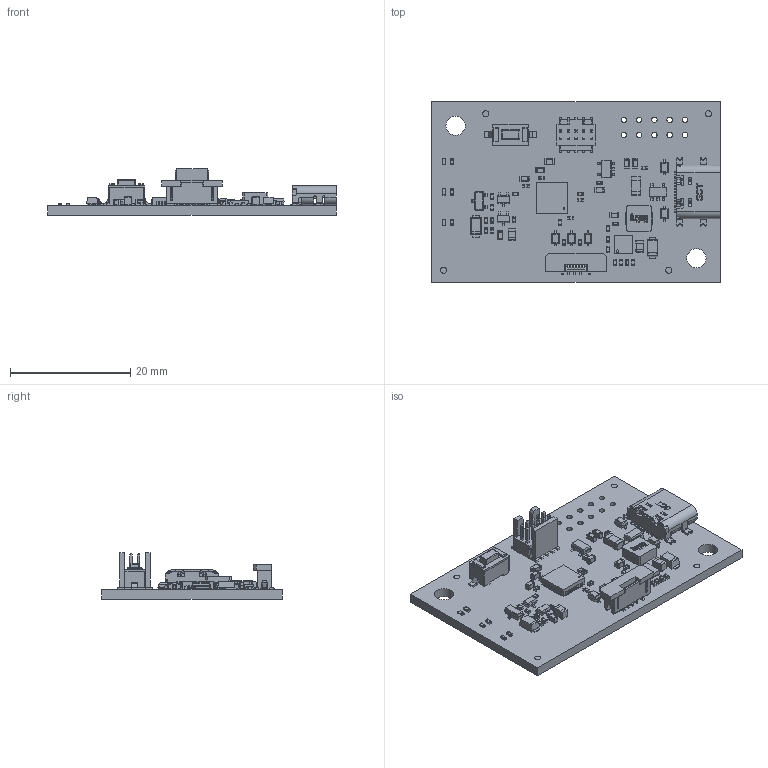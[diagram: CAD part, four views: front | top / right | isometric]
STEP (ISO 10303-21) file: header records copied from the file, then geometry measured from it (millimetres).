
FILE_DESCRIPTION(('Open CASCADE Model'),'2;1');
FILE_NAME('Open CASCADE Shape Model','2025-10-31T11:23:48',('Author'),( 'Open CASCADE'),'Open CASCADE STEP processor 7.5','Open CASCADE 7.5' ,'Unknown');
FILE_SCHEMA(('AUTOMOTIVE_DESIGN { 1 0 10303 214 1 1 1 1 }'));
Length unit declared in the file: millimetre
Products named in the file (143): PCB; Board; Open CASCADE STEP translator 7.5 3.1.1; SW1; PTS636SM43SMTRLFS_RGB8421504; PTS636SM43SMTRLFS_PART1; PTS636SM43SMTRLFS_PART2; PTS636SM43SMTRLFS_PART3; PTS636SM43SMTRLFS_PART4; PTS636SM43SMTRLFS_PART5; PTS636SM43SMTRLFS_PART6; PTS636SM43SMTRLFS_PART7; PTS636SM43SMTRLFS_PART8; PTS636SM43SMTRLFS_PART9; PTS636SM43SMTRLFS_PART10; R7; User Library-CR1005-0402; C12; A3D-CAP-0001-1; Pin1; Pin2; CeramicBody; L1; SRP4020TA series_RGB8421504; FB2; BLM31PG601SN1L_RGB8421504; FB1; MMZ1608Q601BTA00_RGB8421504; D4; D1213A-01WS-7_RGB8421504; C13; CAP_SMD_0805_N; C4; C9; CAP_SMD_0603_N; C16; LD3; Download_STP_WL-SMCC_0402_compact (rev1); Resin; Contact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
Assembly tree (195 placements, depth 5):
  PCB
    Board
      Open CASCADE STEP translator 7.5 3.1.1
    SW1
      PTS636SM43SMTRLFS_RGB8421504
        PTS636SM43SMTRLFS_PART1
        PTS636SM43SMTRLFS_PART2
        PTS636SM43SMTRLFS_PART3
        PTS636SM43SMTRLFS_PART4
        PTS636SM43SMTRLFS_PART5
        PTS636SM43SMTRLFS_PART6
        PTS636SM43SMTRLFS_PART7
        PTS636SM43SMTRLFS_PART8
        PTS636SM43SMTRLFS_PART9
        PTS636SM43SMTRLFS_PART10
    R7
      User Library-CR1005-0402
    C12
      A3D-CAP-0001-1
        Pin1
        Pin2
        CeramicBody
    L1
      SRP4020TA series_RGB8421504
    FB2
      BLM31PG601SN1L_RGB8421504
    FB1
      MMZ1608Q601BTA00_RGB8421504
    D4
      D1213A-01WS-7_RGB8421504
    C13
      CAP_SMD_0805_N
    C4
      CAP_SMD_0805_N
    C9
      CAP_SMD_0603_N
    C16
      CAP_SMD_0603_N
    LD3
      Download_STP_WL-SMCC_0402_compact (rev1)
        PCB
        PCB
        PCB
        PCB
        PCB
        PCB
        PCB
        PCB
        PCB
        Resin
        Contact
        Contact
        Contact
        Contact
        Contact
        Contact
        Contact
        Contact
    LD2
      Download_STP_WL-SMCC_0402_compact (rev1)
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Bounding box: 48 x 30 x 7.75 mm (x, y, z)
Volume: 2777.8 mm3; surface area: 5322.9 mm2
Topology: 275 solids, 537 shells, 6144 faces, 15753 edges, 10174 vertices
Faces by surface type: plane 3960, cylinder 1470, bspline 514, torus 72, extrusion 61, sphere 40, cone 27
Full cylindrical faces by diameter (mm): 0.255 x1, 0.65 x2, 0.8 x2, 0.9 x10, 1 x4, 3.2 x2
Entity records: 111761 total; most frequent: CARTESIAN_POINT 24006, ORIENTED_EDGE 16180, DIRECTION 15599, EDGE_CURVE 8678, VECTOR 6757, LINE 6696, VERTEX_POINT 5956, AXIS2_PLACEMENT_3D 4421
